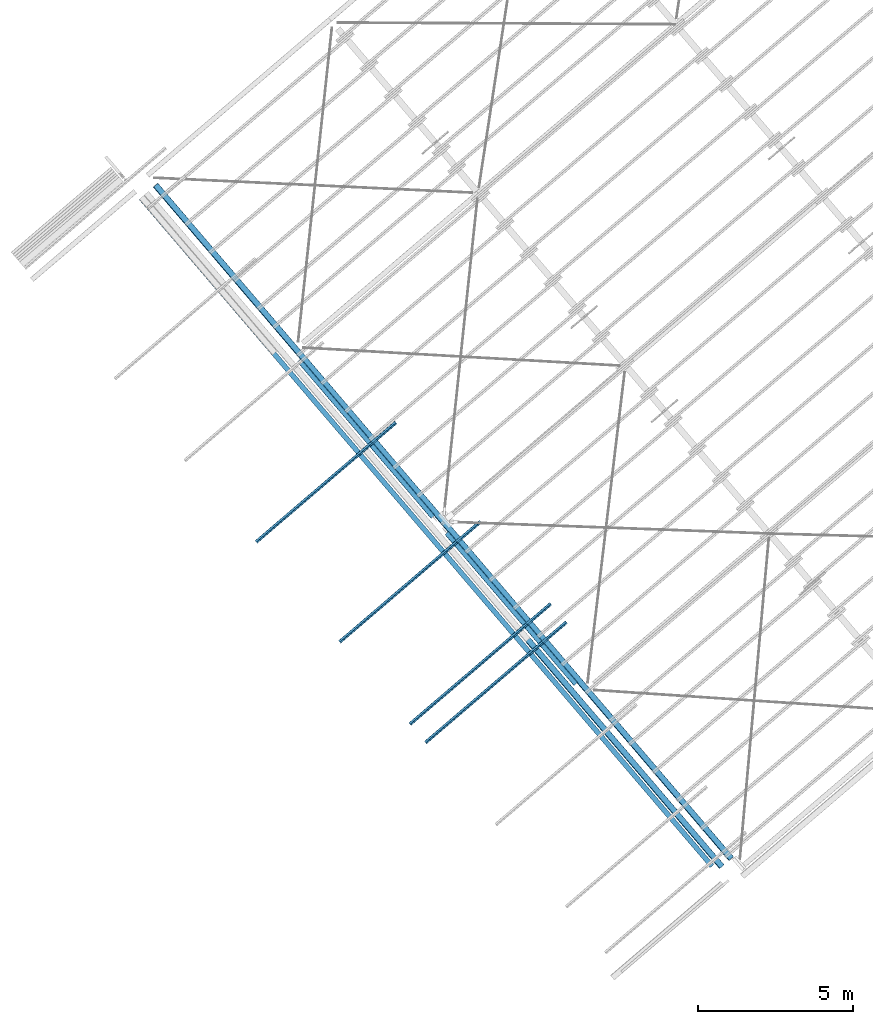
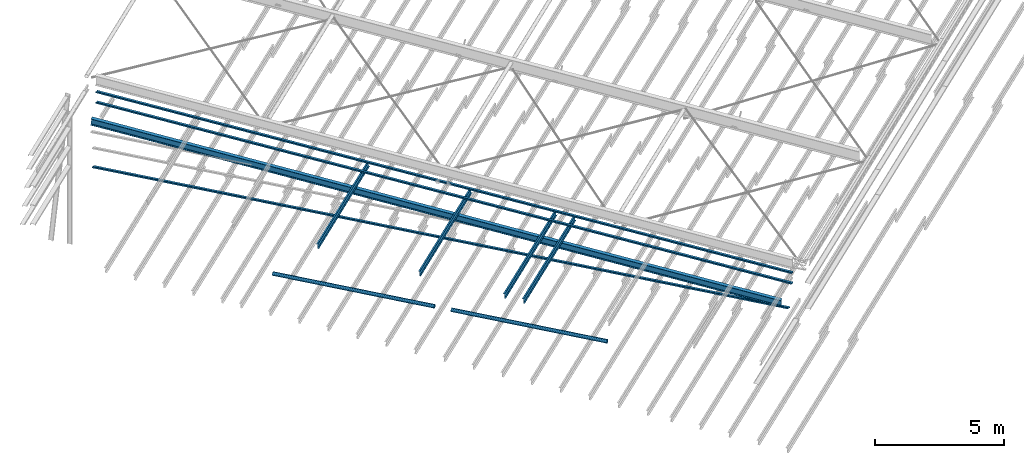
# One storey, part 1 of 25: 10 beams.
"""IFC2X3 building model written with IfcOpenShell, lengths in millimetres."""

import ifcopenshell
import ifcopenshell.guid

model = None  # the IFC model being written
_history = None  # IfcOwnerHistory: only IFC2X3 demands one
_inside = {}  # id of a spatial element -> (the spatial element, [elements in it])
_under = {}  # id of a project, library or spatial element -> (it, [spatial elements below it])
_declared = {}  # id of a project -> (the project, [libraries it declares])
_typed = {}  # id of a type object -> (the type object, [elements of that type])
_made_of = {}  # id of a material, layer set ... -> (it, [elements and type objects made of it])


def new_model(schema):
    """Start an empty IFC model of exactly this schema.

    Asked for "IFC4X3", IfcOpenShell would pick the latest addendum, in which some entities
    have other attributes; the version numbers below select the first issue.
    IFC2X3 requires an IfcOwnerHistory on every rooted entity: one is made here for all.
    """
    global model, _history
    if schema == "IFC4X3":
        model = ifcopenshell.file(schema_version=(4, 3, 0, 0))
    else:
        model = ifcopenshell.file(schema=schema)
    _inside.clear()
    _under.clear()
    _declared.clear()
    _typed.clear()
    _made_of.clear()
    _history = None
    if model.schema == "IFC2X3":
        org = make("IfcOrganization", Name="unknown")
        user = make(
            "IfcPersonAndOrganization",
            ThePerson=make("IfcPerson", FamilyName="unknown"),
            TheOrganization=org,
        )
        app = make(
            "IfcApplication",
            ApplicationDeveloper=org,
            Version="unknown",
            ApplicationFullName="unknown",
            ApplicationIdentifier="unknown",
        )
        _history = make(
            "IfcOwnerHistory",
            OwningUser=user,
            OwningApplication=app,
            ChangeAction="ADDED",
            CreationDate=0,
        )
    return model


def make(cls, **values):
    """One entity of the class cls with the attributes given. An attribute that is None is left unset."""
    return model.create_entity(
        cls, **{name: value for name, value in values.items() if value is not None}
    )


def entity(cls, *values):
    """Any entity or typed value of the class cls, its attributes in the order of the schema. None: left unset."""
    e = model.create_entity(cls)
    for i, value in enumerate(values):
        if value is not None:
            e[i] = value
    return e


def rooted(cls, **values):
    """An entity with a GlobalId (a new one), such as an element, a storey or a relation."""
    return make(cls, GlobalId=ifcopenshell.guid.new(), OwnerHistory=_history, **values)


def si_unit(unit_type, name, prefix=None):
    """IfcSIUnit, for example si_unit("LENGTHUNIT", "METRE", prefix="MILLI")."""
    return make("IfcSIUnit", UnitType=unit_type, Prefix=prefix, Name=name)


def converted_unit(unit_type, name, factor, base, dimensions=None, offset=None):
    """IfcConversionBasedUnit, such as the inch: factor (a typed value) times the base unit."""
    return make(
        "IfcConversionBasedUnit"
        if offset is None
        else "IfcConversionBasedUnitWithOffset",
        ConversionOffset=offset,
        Dimensions=None
        if dimensions is None
        else entity("IfcDimensionalExponents", *dimensions),
        UnitType=unit_type,
        Name=name,
        ConversionFactor=make(
            "IfcMeasureWithUnit", ValueComponent=factor, UnitComponent=base
        ),
    )


def derived_unit(unit_type, elements):
    """IfcDerivedUnit: a product of units, each with its exponent."""
    return make(
        "IfcDerivedUnit",
        Elements=[
            make("IfcDerivedUnitElement", Unit=unit, Exponent=power)
            for unit, power in elements
        ],
        UnitType=unit_type,
    )


def assignment(units):
    """IfcUnitAssignment: the units of a project."""
    return None if units is None else make("IfcUnitAssignment", Units=units)


def point(xyz):
    """IfcCartesianPoint."""
    return None if xyz is None else make("IfcCartesianPoint", Coordinates=xyz)


def direction(xyz):
    """IfcDirection."""
    return None if xyz is None else make("IfcDirection", DirectionRatios=xyz)


def frame(location, z_axis=None, x_axis=None):
    """IfcAxis2Placement3D, a coordinate frame: its origin and axes. An axis left out is left unset."""
    return make(
        "IfcAxis2Placement3D",
        Location=point(location),
        Axis=direction(z_axis),
        RefDirection=direction(x_axis),
    )


def frame_2d(location, x_axis=None):
    """IfcAxis2Placement2D, a coordinate frame in the plane: its origin and x axis."""
    return make(
        "IfcAxis2Placement2D", Location=point(location), RefDirection=direction(x_axis)
    )


def origin():
    """The frame at (0, 0, 0) with its axes left unset."""
    return frame((0.0, 0.0, 0.0))


def origin_2d_with_axis():
    """The frame at (0, 0) in the plane with the x axis (1, 0) written out."""
    return frame_2d((0.0, 0.0), x_axis=(1.0, 0.0))


def place(relative_to, where):
    """IfcLocalPlacement: puts the frame where relative to a parent placement (None: the world)."""
    return make(
        "IfcLocalPlacement", PlacementRelTo=relative_to, RelativePlacement=where
    )


def context(
    kind, dimensions, precision=None, world=None, true_north=None, identifier=None
):
    """IfcGeometricRepresentationContext, for example the 3D "Model" context."""
    return make(
        "IfcGeometricRepresentationContext",
        ContextIdentifier=identifier,
        ContextType=kind,
        CoordinateSpaceDimension=dimensions,
        Precision=precision,
        WorldCoordinateSystem=world,
        TrueNorth=true_north,
    )


def subcontext(parent, identifier, kind, view, scale=None):
    """IfcGeometricRepresentationSubContext, for example "Body" below "Model"."""
    return make(
        "IfcGeometricRepresentationSubContext",
        ContextIdentifier=identifier,
        ContextType=kind,
        ParentContext=parent,
        TargetScale=scale,
        TargetView=view,
    )


def project(units=None, contexts=None):
    """IfcProject with its units and contexts."""
    return rooted(
        "IfcProject",
        Name="project",
        RepresentationContexts=contexts,
        UnitsInContext=assignment(units),
    )


def spatial(cls, under=None, at=None, **own):
    """A site, building, storey or space (cls), placed at a placement, below another one or the project."""
    s = rooted(cls, ObjectPlacement=at, **own)
    if under is not None:
        _under.setdefault(under.id(), (under, []))[1].append(s)
    return s


def polyline(points):
    """IfcPolyline through the points."""
    return make("IfcPolyline", Points=[point(p) for p in points])


def circle_curve(where, radius):
    """IfcCircle in the frame where."""
    return make("IfcCircle", Position=where, Radius=radius)


def parameter(value):
    """IfcParameterValue: where a trimmed curve begins or ends, as a parameter of its basis curve."""
    return model.create_entity("IfcParameterValue", value)


def trimmed(basis, trim1, trim2, sense, master):
    """IfcTrimmedCurve: the piece of a basis curve between two trims."""
    return make(
        "IfcTrimmedCurve",
        BasisCurve=basis,
        Trim1=trim1,
        Trim2=trim2,
        SenseAgreement=sense,
        MasterRepresentation=master,
    )


def segment(curve, same_sense, transition):
    """IfcCompositeCurveSegment."""
    return make(
        "IfcCompositeCurveSegment",
        Transition=transition,
        SameSense=same_sense,
        ParentCurve=curve,
    )


def composite_curve(segments, self_intersect=None):
    """IfcCompositeCurve: segments joined end to end."""
    return make("IfcCompositeCurve", Segments=segments, SelfIntersect=self_intersect)


def profile(cls, at=None, kind="AREA", **sizes):
    """A parametric profile (cls). Its sizes go by their IFC names, for example OverallWidth=200.0."""
    return make(cls, ProfileType=kind, Position=at, **sizes)


def hollow_circle(**sizes):
    """IfcCircleHollowProfileDef."""
    return profile("IfcCircleHollowProfileDef", **sizes)


def i_section(**sizes):
    """IfcIShapeProfileDef."""
    return profile("IfcIShapeProfileDef", **sizes)


def outline(outer, holes=None, kind="AREA"):
    """IfcArbitraryClosedProfileDef: a profile drawn as a closed curve; with holes, ...WithVoids."""
    if holes is None:
        return make("IfcArbitraryClosedProfileDef", ProfileType=kind, OuterCurve=outer)
    return make(
        "IfcArbitraryProfileDefWithVoids",
        ProfileType=kind,
        OuterCurve=outer,
        InnerCurves=holes,
    )


def extrude(swept, where, along, depth):
    """IfcExtrudedAreaSolid: the profile swept, set in the frame where, extruded along a direction by depth."""
    return make(
        "IfcExtrudedAreaSolid",
        SweptArea=swept,
        Position=where,
        ExtrudedDirection=direction(along),
        Depth=depth,
    )


def shape(context_of_items, identifier, shape_type, items):
    """IfcShapeRepresentation: the items that make up one representation, for example the "Body"."""
    return make(
        "IfcShapeRepresentation",
        ContextOfItems=context_of_items,
        RepresentationIdentifier=identifier,
        RepresentationType=shape_type,
        Items=items,
    )


def material(Name=None, Category=None):
    """IfcMaterial."""
    return make("IfcMaterial", Name=Name, Category=Category)


def made_of(thing, what):
    """Note that an element or type object is made of a material, layer set ...; save() writes the relation."""
    if what is not None:
        _made_of.setdefault(what.id(), (what, []))[1].append(thing)
    return thing


def type_object(cls, material=None, **own):
    """A type object (cls), such as IfcWallType, which elements share."""
    return made_of(rooted(cls, **own), material)


def element(
    cls,
    number,
    at=None,
    inside=None,
    cuts=None,
    type_object=None,
    material=None,
    context=None,
    identifier="Body",
    shape_type=None,
    held_by="IfcProductDefinitionShape",
    body=None,
    shapes=None,
    **own,
):
    """One element of the class cls, such as IfcWall. Its Tag is "e" and its number.

    at: its placement. inside: the storey or other place that contains it. cuts: it is an
    opening in that element (IfcRelVoidsElement). A single representation is given by context,
    identifier, shape_type and body (its items); several are given by shapes. held_by: the class
    of the entity that holds the representations. save() writes the other relations.
    """
    e = rooted(cls, Tag="e%d" % number, ObjectPlacement=at, **own)
    if body is not None:
        shapes = [shape(context, identifier, shape_type, body)]
    if shapes is not None:
        e.Representation = make(held_by, Representations=shapes)
    if inside is not None:
        _inside.setdefault(inside.id(), (inside, []))[1].append(e)
    if cuts is not None:
        rooted(
            "IfcRelVoidsElement", RelatingBuildingElement=cuts, RelatedOpeningElement=e
        )
    if type_object is not None:
        _typed.setdefault(type_object.id(), (type_object, []))[1].append(e)
    return made_of(e, material)


def aggregate(whole, parts):
    """IfcRelAggregates: a whole, such as a stair, and the parts it consists of."""
    return rooted("IfcRelAggregates", RelatingObject=whole, RelatedObjects=parts)


def save(model, path):
    """Write the relations noted so far, then the file.

    IfcRelAggregates (storeys below a building ...), IfcRelContainedInSpatialStructure (elements
    in a storey), IfcRelDefinesByType, IfcRelAssociatesMaterial and IfcRelDeclares: one each for
    every whole, place, type object, material and project.
    """
    for whole, parts in _under.values():
        aggregate(whole, parts)
    for where, things in _inside.values():
        rooted(
            "IfcRelContainedInSpatialStructure",
            RelatedElements=things,
            RelatingStructure=where,
        )
    for kind, things in _typed.values():
        rooted("IfcRelDefinesByType", RelatedObjects=things, RelatingType=kind)
    for what, things in _made_of.values():
        rooted("IfcRelAssociatesMaterial", RelatedObjects=things, RelatingMaterial=what)
    for by, libraries in _declared.values():
        rooted("IfcRelDeclares", RelatingContext=by, RelatedDefinitions=libraries)
    model.write(path)


model = new_model("IFC2X3")

# Units and contexts
model_context = context("Model", 3, precision=0.01, world=origin(), true_north=direction((6.123031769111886e-17, 1.0)))
body_context = subcontext(model_context, "Body", "Model", "MODEL_VIEW")
ifc_project = project(units=[si_unit("LENGTHUNIT", "METRE", prefix="MILLI"), si_unit("AREAUNIT", "SQUARE_METRE"), si_unit("VOLUMEUNIT", "CUBIC_METRE"), converted_unit("PLANEANGLEUNIT", "DEGREE", entity("IfcRatioMeasure", 0.017453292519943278), si_unit("PLANEANGLEUNIT", "RADIAN"), dimensions=[0, 0, 0, 0, 0, 0, 0]), si_unit("MASSUNIT", "GRAM", prefix="KILO"), derived_unit("MASSDENSITYUNIT", [(si_unit("MASSUNIT", "GRAM", prefix="KILO"), 1), (si_unit("LENGTHUNIT", "METRE"), -3)]), derived_unit("MOMENTOFINERTIAUNIT", [(si_unit("LENGTHUNIT", "METRE"), 4)]), si_unit("TIMEUNIT", "SECOND"), si_unit("FREQUENCYUNIT", "HERTZ"), si_unit("THERMODYNAMICTEMPERATUREUNIT", "DEGREE_CELSIUS"), derived_unit("THERMALTRANSMITTANCEUNIT", [(si_unit("MASSUNIT", "GRAM", prefix="KILO"), 1), (si_unit("THERMODYNAMICTEMPERATUREUNIT", "KELVIN"), -1), (si_unit("TIMEUNIT", "SECOND"), -3)]), derived_unit("VOLUMETRICFLOWRATEUNIT", [(si_unit("LENGTHUNIT", "METRE"), 3), (si_unit("TIMEUNIT", "SECOND"), -1)]), derived_unit("MASSFLOWRATEUNIT", [(si_unit("MASSUNIT", "GRAM", prefix="KILO"), 1), (si_unit("TIMEUNIT", "SECOND"), -1)]), derived_unit("ROTATIONALFREQUENCYUNIT", [(si_unit("TIMEUNIT", "SECOND"), -1)]), si_unit("ELECTRICCURRENTUNIT", "AMPERE"), si_unit("ELECTRICVOLTAGEUNIT", "VOLT"), si_unit("POWERUNIT", "WATT"), si_unit("FORCEUNIT", "NEWTON", prefix="KILO"), si_unit("ILLUMINANCEUNIT", "LUX"), si_unit("LUMINOUSFLUXUNIT", "LUMEN"), si_unit("LUMINOUSINTENSITYUNIT", "CANDELA"), derived_unit("USERDEFINED", [(si_unit("MASSUNIT", "GRAM", prefix="KILO"), -1), (si_unit("LENGTHUNIT", "METRE"), -2), (si_unit("TIMEUNIT", "SECOND"), 3), (si_unit("LUMINOUSFLUXUNIT", "LUMEN"), 1)]), derived_unit("SOUNDPOWERUNIT", [(si_unit("MASSUNIT", "GRAM", prefix="KILO"), 1), (si_unit("LENGTHUNIT", "METRE"), 2), (si_unit("TIMEUNIT", "SECOND"), -3)]), derived_unit("LINEARVELOCITYUNIT", [(si_unit("LENGTHUNIT", "METRE"), 1), (si_unit("TIMEUNIT", "SECOND"), -1)]), si_unit("PRESSUREUNIT", "PASCAL"), derived_unit("USERDEFINED", [(si_unit("LENGTHUNIT", "METRE"), -2), (si_unit("MASSUNIT", "GRAM", prefix="KILO"), 1), (si_unit("TIMEUNIT", "SECOND"), -2)]), derived_unit("LINEARFORCEUNIT", [(si_unit("MASSUNIT", "GRAM", prefix="KILO"), 1), (si_unit("LENGTHUNIT", "METRE"), 1), (si_unit("TIMEUNIT", "SECOND"), -2), (si_unit("LENGTHUNIT", "METRE"), -1)]), derived_unit("PLANARFORCEUNIT", [(si_unit("MASSUNIT", "GRAM", prefix="KILO"), 1), (si_unit("LENGTHUNIT", "METRE"), 1), (si_unit("TIMEUNIT", "SECOND"), -2), (si_unit("LENGTHUNIT", "METRE"), -2)])], contexts=[model_context])

# Site, building, storey
site_placement = place(None, frame((962.4174930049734, -6014.433753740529, 0.0), z_axis=(0.0, 0.0, 1.0), x_axis=(0.7601792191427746, 0.649713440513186, 0.0)))
site = spatial("IfcSite", under=ifc_project, at=site_placement, Name="Default", CompositionType="ELEMENT")
building_placement = place(site_placement, origin())
building = spatial("IfcBuilding", under=site, at=building_placement, CompositionType="ELEMENT")
storey_placement = place(building_placement, frame((0.0, 0.0, 9200.0)))
storey = spatial("IfcBuildingStorey", under=building, at=storey_placement, Name="TOP OF CEILING", CompositionType="ELEMENT", Elevation=9200.000000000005)

# Beams
ifc_material_1 = material(Name="Metal - Steel - 300 MPa")
beam_type_1 = type_object("IfcBeamType", Name="ADSK_AU_CHS-Circular Hollow Sections (AS 1163_C350):168.3x6.4CHS", PredefinedType="NOTDEFINED")
beam_1_placement = place(storey_placement, frame((154419.96817234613, -17990.815770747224, -3340.84999999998), z_axis=(0.0, 0.0, 1.0), x_axis=(0.0, 1.0, 0.0)))
element("IfcBeam", 1, at=beam_1_placement, inside=storey, type_object=beam_type_1, material=ifc_material_1, Name="ADSK_AU_CHS-Circular Hollow Sections (AS 1163_C350):168.3x6.4CHS", ObjectType="ADSK_AU_CHS-Circular Hollow Sections (AS 1163_C350):168.3x6.4CHS", context=body_context, shape_type="SweptSolid", body=[
    extrude(hollow_circle(Radius=84.15000000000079, WallThickness=6.4000000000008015, at=origin_2d_with_axis()), frame((-7.996653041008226, 0.0, -84.15000000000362), z_axis=(1.0, 0.0, 0.0), x_axis=(0.0, 1.0, 0.0)), (0.0, 0.0, 1.0), 6428.170781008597),
])
beam_2_placement = place(storey_placement, frame((154419.96817234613, -10887.58709755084, -3340.8500000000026), z_axis=(0.0, 0.0, 1.0), x_axis=(0.0, 1.0, 0.0)))
element("IfcBeam", 2, at=beam_2_placement, inside=storey, type_object=beam_type_1, material=ifc_material_1, Name="ADSK_AU_CHS-Circular Hollow Sections (AS 1163_C350):168.3x6.4CHS", ObjectType="ADSK_AU_CHS-Circular Hollow Sections (AS 1163_C350):168.3x6.4CHS", context=body_context, shape_type="SweptSolid", body=[
    extrude(hollow_circle(Radius=84.15000000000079, WallThickness=6.4000000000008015, at=origin_2d_with_axis()), frame((0.0, 0.0, -84.15000000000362), z_axis=(1.0, 0.0, 0.0), x_axis=(0.0, 1.0, 0.0)), (0.0, 0.0, 1.0), 6671.500000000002),
])
beam_type_2 = type_object("IfcBeamType", Name="ADSK_AU_UB-Universal Beams (AS 3679_1):310UB40.4", PredefinedType="NOTDEFINED")
beam_3_placement = place(storey_placement, frame((153938.96020471, -25913.819673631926, 550.0897267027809), z_axis=(0.0, -0.06949270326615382, 0.9975824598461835), x_axis=(0.0, 0.9975824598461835, 0.06949270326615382)))
element("IfcBeam", 3, at=beam_3_placement, inside=storey, type_object=beam_type_2, Name="ADSK_AU_UB-Universal Beams (AS 3679_1):310UB40.4", ObjectType="ADSK_AU_UB-Universal Beams (AS 3679_1):310UB40.4", context=body_context, shape_type="SweptSolid", body=[
    extrude(i_section(OverallWidth=164.99999999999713, OverallDepth=304.0000000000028, WebThickness=6.100000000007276, FlangeThickness=10.200000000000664, FilletRadius=11.399999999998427, at=frame_2d((1.0800249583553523e-12, 1.7323031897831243e-11), x_axis=(0.0, 1.0))), frame((572.0, 0.0, -152.0), z_axis=(1.0, 0.0, 0.0), x_axis=(0.0, 0.0, -1.0)), (0.0, 0.0, 1.0), 28495.800000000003),
])
beam_type_3 = type_object("IfcBeamType", Name="ADSK_UK_Light Gauge-Zeds-Purlin:Metsec-202Z14", PredefinedType="NOTDEFINED")
beam_4_placement = place(storey_placement, frame((155490.82110097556, -7792.428082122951, 2017.000649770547), z_axis=(-1.0917099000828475e-07, 0.0, 1.0), x_axis=(-1.0, 0.0, -1.0917099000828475e-07)))
element("IfcBeam", 4, at=beam_4_placement, inside=storey, type_object=beam_type_3, material=ifc_material_1, Name="ADSK_UK_Light Gauge-Zeds-Purlin:Metsec-202Z14", ObjectType="ADSK_UK_Light Gauge-Zeds-Purlin:Metsec-202Z14", context=body_context, shape_type="SweptSolid", body=[
    extrude(outline(composite_curve([segment(trimmed(circle_curve(frame_2d((58.0, 98.39999999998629), x_axis=(1.0, 0.0)), 2.800000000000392), [parameter(0.0)], [parameter(89.99999999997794)], True, "PARAMETER"), True, "CONTINUOUS"), segment(polyline([(58.0, 101.19999999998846), (3.6000000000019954, 101.20000000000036)]), True, "CONTINUOUS"), segment(trimmed(circle_curve(frame_2d((3.6000000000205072, 98.40000000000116), x_axis=(0.0, 1.0)), 2.799999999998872), [parameter(0.0)], [parameter(90.00000000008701)], True, "PARAMETER"), True, "CONTINUOUS"), segment(polyline([(0.8000000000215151, 98.4000000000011), (0.7999999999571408, -98.0)]), True, "CONTINUOUS"), segment(trimmed(circle_curve(frame_2d((-0.6000000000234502, -98.0), x_axis=(1.0, 0.0)), 1.400000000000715), [parameter(270.0000000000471)], [parameter(0.0)], True, "PARAMETER"), False, "CONTINUOUS"), segment(polyline([(-0.600000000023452, -99.40000000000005), (-60.0, -99.39999999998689)]), True, "CONTINUOUS"), segment(trimmed(circle_curve(frame_2d((-60.0, -98.0), x_axis=(0.0, -1.0)), 1.4000000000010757), [parameter(270.0000000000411)], [parameter(0.0)], True, "PARAMETER"), False, "CONTINUOUS"), segment(polyline([(-61.40000000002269, -98.0), (-61.400000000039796, -81.79999999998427)]), True, "CONTINUOUS"), segment(polyline([(-61.40000000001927, -81.7999999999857), (-62.80000000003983, -81.79999999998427)]), True, "CONTINUOUS"), segment(polyline([(-62.80000000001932, -81.79999999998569), (-62.800000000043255, -98.0)]), True, "CONTINUOUS"), segment(trimmed(circle_curve(frame_2d((-60.0, -98.0), x_axis=(-1.0, 0.0)), 2.8000000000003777), [parameter(0.0)], [parameter(89.99999999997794)], True, "PARAMETER"), True, "CONTINUOUS"), segment(polyline([(-60.0, -100.79999999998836), (-0.600000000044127, -100.80000000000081)]), True, "CONTINUOUS"), segment(trimmed(circle_curve(frame_2d((-0.6000000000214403, -98.0), x_axis=(0.0, -1.0)), 2.7999999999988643), [parameter(0.0)], [parameter(90.00000000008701)], True, "PARAMETER"), True, "CONTINUOUS"), segment(polyline([(2.1999999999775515, -98.0), (2.200000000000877, 98.40000000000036)]), True, "CONTINUOUS"), segment(trimmed(circle_curve(frame_2d((3.6000000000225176, 98.39999999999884), x_axis=(-1.0, 0.0)), 1.4000000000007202), [parameter(270.0000000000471)], [parameter(0.0)], True, "PARAMETER"), False, "CONTINUOUS"), segment(polyline([(3.600000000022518, 99.79999999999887), (58.0, 99.79999999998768)]), True, "CONTINUOUS"), segment(trimmed(circle_curve(frame_2d((58.0, 98.39999999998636), x_axis=(0.0, 1.0)), 1.4000000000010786), [parameter(270.0000000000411)], [parameter(0.0)], True, "PARAMETER"), False, "CONTINUOUS"), segment(polyline([(59.4000000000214, 98.39999999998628), (59.399999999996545, 80.19999999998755)]), True, "CONTINUOUS"), segment(polyline([(59.40000000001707, 80.19999999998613), (60.79999999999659, 80.19999999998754)]), True, "CONTINUOUS"), segment(polyline([(60.800000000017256, 80.19999999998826), (60.800000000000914, 98.39999999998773)]), True, "CONTINUOUS")], self_intersect=False)), frame((0.430448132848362, -7.694663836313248, -100.50831880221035), z_axis=(-1.0, 0.0, 0.0), x_axis=(0.0, 0.9975883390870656, -0.06940825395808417)), (0.0, 0.0, -1.0), 5951.000000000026),
])
beam_5_placement = place(storey_placement, frame((155490.82110097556, -12007.428082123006, 1730.0), z_axis=(0.0, 0.0, 1.0), x_axis=(-1.0, 0.0, 0.0)))
element("IfcBeam", 5, at=beam_5_placement, inside=storey, type_object=beam_type_3, material=ifc_material_1, Name="ADSK_UK_Light Gauge-Zeds-Purlin:Metsec-202Z14", ObjectType="ADSK_UK_Light Gauge-Zeds-Purlin:Metsec-202Z14", context=body_context, shape_type="SweptSolid", body=[
    extrude(outline(composite_curve([segment(trimmed(circle_curve(frame_2d((98.39999999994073, 58.0), x_axis=(1.0, 0.0)), 2.799999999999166), [parameter(0.0)], [parameter(90.00000000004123)], True, "PARAMETER"), True, "CONTINUOUS"), segment(polyline([(98.39999999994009, 60.8000000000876), (80.19999999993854, 60.80000000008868)]), True, "CONTINUOUS"), segment(polyline([(80.1999999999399, 60.80000000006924), (80.19999999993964, 59.400000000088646)]), True, "CONTINUOUS"), segment(polyline([(80.19999999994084, 59.400000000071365), (98.39999999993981, 59.400000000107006)]), True, "CONTINUOUS"), segment(trimmed(circle_curve(frame_2d((98.39999999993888, 58.0), x_axis=(0.0, 1.0)), 1.4000000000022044), [parameter(270.0000000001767)], [parameter(0.0)], True, "PARAMETER"), False, "CONTINUOUS"), segment(polyline([(99.79999999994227, 58.0), (99.79999999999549, 3.600000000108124)]), True, "CONTINUOUS"), segment(trimmed(circle_curve(frame_2d((98.39999999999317, 3.6000000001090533), x_axis=(1.0, 0.0)), 1.4000000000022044), [parameter(270.0000000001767)], [parameter(0.0)], True, "PARAMETER"), False, "CONTINUOUS"), segment(polyline([(98.39999999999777, 2.200000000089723), (-98.0, 2.1999999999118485)]), True, "CONTINUOUS"), segment(trimmed(circle_curve(frame_2d((-98.0, -0.6000000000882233), x_axis=(0.0, 1.0)), 2.79999999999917), [parameter(0.0)], [parameter(90.00000000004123)], True, "PARAMETER"), True, "CONTINUOUS"), segment(polyline([(-100.79999999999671, -0.6000000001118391), (-100.79999999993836, -60.0)]), True, "CONTINUOUS"), segment(trimmed(circle_curve(frame_2d((-98.0, -60.0), x_axis=(-1.0, 0.0)), 2.7999999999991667), [parameter(0.0)], [parameter(90.00000000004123)], True, "PARAMETER"), True, "CONTINUOUS"), segment(polyline([(-98.0, -62.80000000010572), (-81.79999999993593, -62.800000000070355)]), True, "CONTINUOUS"), segment(polyline([(-81.79999999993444, -62.800000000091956), (-81.79999999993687, -61.40000000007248)]), True, "CONTINUOUS"), segment(polyline([(-81.79999999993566, -61.40000000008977), (-98.0, -61.40000000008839)]), True, "CONTINUOUS"), segment(trimmed(circle_curve(frame_2d((-98.0, -60.0), x_axis=(0.0, -1.0)), 1.400000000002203), [parameter(270.0000000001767)], [parameter(0.0)], True, "PARAMETER"), False, "CONTINUOUS"), segment(polyline([(-99.39999999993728, -60.0), (-99.39999999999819, -0.6000000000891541)]), True, "CONTINUOUS"), segment(trimmed(circle_curve(frame_2d((-98.0, -0.6000000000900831), x_axis=(-1.0, 0.0)), 1.400000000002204), [parameter(270.0000000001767)], [parameter(0.0)], True, "PARAMETER"), False, "CONTINUOUS"), segment(polyline([(-98.0, 0.7999999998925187), (98.39999999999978, 0.8000000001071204)]), True, "CONTINUOUS"), segment(trimmed(circle_curve(frame_2d((98.39999999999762, 3.6000000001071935), x_axis=(0.0, -1.0)), 2.7999999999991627), [parameter(0.0)], [parameter(90.00000000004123)], True, "PARAMETER"), True, "CONTINUOUS"), segment(polyline([(101.19999999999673, 3.6000000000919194), (101.19999999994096, 58.0)]), True, "CONTINUOUS")], self_intersect=False)), frame((0.0, -7.694663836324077, -100.5083188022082), z_axis=(1.0, 0.0, 0.0), x_axis=(0.0, -0.06940825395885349, -0.997588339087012)), (0.0, 0.0, 1.0), 6000.000000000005),
])
beam_6_placement = place(storey_placement, frame((155490.82110097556, -15507.428082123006, 1490.0), z_axis=(0.0, 0.0, 1.0), x_axis=(-1.0, 0.0, 0.0)))
element("IfcBeam", 6, at=beam_6_placement, inside=storey, type_object=beam_type_3, material=ifc_material_1, Name="ADSK_UK_Light Gauge-Zeds-Purlin:Metsec-202Z14", ObjectType="ADSK_UK_Light Gauge-Zeds-Purlin:Metsec-202Z14", context=body_context, shape_type="SweptSolid", body=[
    extrude(outline(composite_curve([segment(trimmed(circle_curve(frame_2d((98.39999999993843, 58.0), x_axis=(1.0, 0.0)), 2.799999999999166), [parameter(0.0)], [parameter(90.00000000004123)], True, "PARAMETER"), True, "CONTINUOUS"), segment(polyline([(98.39999999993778, 60.80000000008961), (80.19999999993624, 60.80000000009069)]), True, "CONTINUOUS"), segment(polyline([(80.19999999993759, 60.80000000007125), (80.19999999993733, 59.40000000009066)]), True, "CONTINUOUS"), segment(polyline([(80.19999999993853, 59.400000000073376), (98.39999999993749, 59.40000000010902)]), True, "CONTINUOUS"), segment(trimmed(circle_curve(frame_2d((98.39999999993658, 58.0), x_axis=(0.0, 1.0)), 1.4000000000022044), [parameter(270.0000000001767)], [parameter(0.0)], True, "PARAMETER"), False, "CONTINUOUS"), segment(polyline([(99.79999999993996, 58.0), (99.7999999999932, 3.6000000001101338)]), True, "CONTINUOUS"), segment(trimmed(circle_curve(frame_2d((98.39999999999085, 3.6000000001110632), x_axis=(1.0, 0.0)), 1.4000000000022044), [parameter(270.0000000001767)], [parameter(0.0)], True, "PARAMETER"), False, "CONTINUOUS"), segment(polyline([(98.39999999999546, 2.200000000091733), (-98.0, 2.1999999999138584)]), True, "CONTINUOUS"), segment(trimmed(circle_curve(frame_2d((-98.0, -0.6000000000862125), x_axis=(0.0, 1.0)), 2.79999999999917), [parameter(0.0)], [parameter(90.00000000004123)], True, "PARAMETER"), True, "CONTINUOUS"), segment(polyline([(-100.79999999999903, -0.6000000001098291), (-100.79999999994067, -60.0)]), True, "CONTINUOUS"), segment(trimmed(circle_curve(frame_2d((-98.0, -60.0), x_axis=(-1.0, 0.0)), 2.7999999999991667), [parameter(0.0)], [parameter(90.00000000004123)], True, "PARAMETER"), True, "CONTINUOUS"), segment(polyline([(-98.0, -62.80000000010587), (-81.7999999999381, -62.80000000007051)]), True, "CONTINUOUS"), segment(polyline([(-81.79999999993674, -62.800000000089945), (-81.79999999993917, -61.40000000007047)]), True, "CONTINUOUS"), segment(polyline([(-81.79999999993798, -61.40000000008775), (-98.0, -61.40000000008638)]), True, "CONTINUOUS"), segment(trimmed(circle_curve(frame_2d((-98.0, -60.0), x_axis=(0.0, -1.0)), 1.400000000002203), [parameter(270.0000000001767)], [parameter(0.0)], True, "PARAMETER"), False, "CONTINUOUS"), segment(polyline([(-99.39999999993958, -60.0), (-99.40000000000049, -0.6000000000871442)]), True, "CONTINUOUS"), segment(trimmed(circle_curve(frame_2d((-98.0, -0.6000000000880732), x_axis=(-1.0, 0.0)), 1.400000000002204), [parameter(270.0000000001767)], [parameter(0.0)], True, "PARAMETER"), False, "CONTINUOUS"), segment(polyline([(-98.0, 0.7999999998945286), (98.39999999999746, 0.8000000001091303)]), True, "CONTINUOUS"), segment(trimmed(circle_curve(frame_2d((98.39999999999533, 3.6000000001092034), x_axis=(0.0, -1.0)), 2.7999999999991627), [parameter(0.0)], [parameter(90.00000000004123)], True, "PARAMETER"), True, "CONTINUOUS"), segment(polyline([(101.19999999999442, 3.6000000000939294), (101.19999999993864, 58.0)]), True, "CONTINUOUS")], self_intersect=False)), frame((0.0, -7.694663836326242, -100.50831880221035), z_axis=(1.0, 0.0, 0.0), x_axis=(0.0, -0.06940825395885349, -0.997588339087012)), (0.0, 0.0, 1.0), 6000.000000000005),
])
beam_7_placement = place(storey_placement, frame((155490.82110097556, -16287.428082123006, 1430.6412553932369), z_axis=(0.0, 0.0, 1.0), x_axis=(-1.0, 0.0, 0.0)))
element("IfcBeam", 7, at=beam_7_placement, inside=storey, type_object=beam_type_3, material=ifc_material_1, Name="ADSK_UK_Light Gauge-Zeds-Purlin:Metsec-202Z14", ObjectType="ADSK_UK_Light Gauge-Zeds-Purlin:Metsec-202Z14", context=body_context, shape_type="SweptSolid", body=[
    extrude(outline(composite_curve([segment(trimmed(circle_curve(frame_2d((98.39999999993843, 58.0), x_axis=(1.0, 0.0)), 2.799999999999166), [parameter(0.0)], [parameter(90.00000000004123)], True, "PARAMETER"), True, "CONTINUOUS"), segment(polyline([(98.39999999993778, 60.80000000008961), (80.19999999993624, 60.80000000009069)]), True, "CONTINUOUS"), segment(polyline([(80.19999999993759, 60.80000000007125), (80.19999999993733, 59.40000000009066)]), True, "CONTINUOUS"), segment(polyline([(80.19999999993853, 59.400000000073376), (98.39999999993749, 59.40000000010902)]), True, "CONTINUOUS"), segment(trimmed(circle_curve(frame_2d((98.39999999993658, 58.0), x_axis=(0.0, 1.0)), 1.4000000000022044), [parameter(270.0000000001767)], [parameter(0.0)], True, "PARAMETER"), False, "CONTINUOUS"), segment(polyline([(99.79999999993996, 58.0), (99.7999999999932, 3.6000000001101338)]), True, "CONTINUOUS"), segment(trimmed(circle_curve(frame_2d((98.39999999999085, 3.6000000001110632), x_axis=(1.0, 0.0)), 1.4000000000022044), [parameter(270.0000000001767)], [parameter(0.0)], True, "PARAMETER"), False, "CONTINUOUS"), segment(polyline([(98.39999999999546, 2.200000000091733), (-98.0, 2.1999999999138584)]), True, "CONTINUOUS"), segment(trimmed(circle_curve(frame_2d((-98.0, -0.6000000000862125), x_axis=(0.0, 1.0)), 2.79999999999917), [parameter(0.0)], [parameter(90.00000000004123)], True, "PARAMETER"), True, "CONTINUOUS"), segment(polyline([(-100.79999999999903, -0.6000000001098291), (-100.79999999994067, -60.0)]), True, "CONTINUOUS"), segment(trimmed(circle_curve(frame_2d((-98.0, -60.0), x_axis=(-1.0, 0.0)), 2.7999999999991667), [parameter(0.0)], [parameter(90.00000000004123)], True, "PARAMETER"), True, "CONTINUOUS"), segment(polyline([(-98.0, -62.80000000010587), (-81.7999999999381, -62.80000000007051)]), True, "CONTINUOUS"), segment(polyline([(-81.79999999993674, -62.800000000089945), (-81.79999999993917, -61.40000000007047)]), True, "CONTINUOUS"), segment(polyline([(-81.79999999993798, -61.40000000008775), (-98.0, -61.40000000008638)]), True, "CONTINUOUS"), segment(trimmed(circle_curve(frame_2d((-98.0, -60.0), x_axis=(0.0, -1.0)), 1.400000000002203), [parameter(270.0000000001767)], [parameter(0.0)], True, "PARAMETER"), False, "CONTINUOUS"), segment(polyline([(-99.39999999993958, -60.0), (-99.40000000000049, -0.6000000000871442)]), True, "CONTINUOUS"), segment(trimmed(circle_curve(frame_2d((-98.0, -0.6000000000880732), x_axis=(-1.0, 0.0)), 1.400000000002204), [parameter(270.0000000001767)], [parameter(0.0)], True, "PARAMETER"), False, "CONTINUOUS"), segment(polyline([(-98.0, 0.7999999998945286), (98.39999999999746, 0.8000000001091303)]), True, "CONTINUOUS"), segment(trimmed(circle_curve(frame_2d((98.39999999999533, 3.6000000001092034), x_axis=(0.0, -1.0)), 2.7999999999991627), [parameter(0.0)], [parameter(90.00000000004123)], True, "PARAMETER"), True, "CONTINUOUS"), segment(polyline([(101.19999999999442, 3.6000000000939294), (101.19999999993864, 58.0)]), True, "CONTINUOUS")], self_intersect=False)), frame((0.0, -7.694663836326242, -100.50831880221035), z_axis=(1.0, 0.0, 0.0), x_axis=(0.0, -0.06940825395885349, -0.997588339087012)), (0.0, 0.0, 1.0), 6000.000000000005),
])
beam_8_placement = place(storey_placement, frame((154066.46020470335, -25607.428082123, 100.0), z_axis=(0.0, 0.0, 1.0), x_axis=(0.0, 1.0, 0.0)))
element("IfcBeam", 8, at=beam_8_placement, inside=storey, type_object=beam_type_3, material=ifc_material_1, Name="ADSK_UK_Light Gauge-Zeds-Purlin:Metsec-202Z14", ObjectType="ADSK_UK_Light Gauge-Zeds-Purlin:Metsec-202Z14", context=body_context, shape_type="SweptSolid", body=[
    extrude(outline(composite_curve([segment(polyline([(3.600000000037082, -101.20000000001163), (58.0, -101.20000000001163)]), True, "CONTINUOUS"), segment(trimmed(circle_curve(frame_2d((58.0, -98.40000000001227), x_axis=(0.0, -1.0)), 2.8000000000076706), [parameter(0.0)], [parameter(89.99999999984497)], True, "PARAMETER"), True, "CONTINUOUS"), segment(polyline([(60.80000000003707, -98.40000000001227), (60.79999999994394, -80.2000000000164)]), True, "CONTINUOUS"), segment(polyline([(60.80000000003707, -80.2000000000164), (59.399999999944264, -80.2000000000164)]), True, "CONTINUOUS"), segment(polyline([(59.40000000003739, -80.1999999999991), (59.399999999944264, -98.40000000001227)]), True, "CONTINUOUS"), segment(trimmed(circle_curve(frame_2d((58.0, -98.40000000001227), x_axis=(1.0, 0.0)), 1.3999999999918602), [parameter(269.9999999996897)], [parameter(0.0)], True, "PARAMETER"), False, "CONTINUOUS"), segment(polyline([(58.0, -99.80000000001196), (3.5999999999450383, -99.80000000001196)]), True, "CONTINUOUS"), segment(trimmed(circle_curve(frame_2d((3.5999999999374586, -98.40000000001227), x_axis=(0.0, -1.0)), 1.399999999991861), [parameter(269.9999999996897)], [parameter(0.0)], True, "PARAMETER"), False, "CONTINUOUS"), segment(polyline([(2.2000000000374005, -98.39999999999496), (2.1999999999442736, 98.0)]), True, "CONTINUOUS"), segment(trimmed(circle_curve(frame_2d((-0.60000000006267, 98.0), x_axis=(1.0, 0.0)), 2.8000000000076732), [parameter(0.0)], [parameter(89.99999999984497)], True, "PARAMETER"), True, "CONTINUOUS"), segment(polyline([(-0.5999999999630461, 100.79999999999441), (-60.0, 100.79999999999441)]), True, "CONTINUOUS"), segment(trimmed(circle_curve(frame_2d((-60.0, 98.0), x_axis=(0.0, 1.0)), 2.800000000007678), [parameter(0.0)], [parameter(89.99999999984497)], True, "PARAMETER"), True, "CONTINUOUS"), segment(polyline([(-62.799999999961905, 98.0), (-62.80000000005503, 81.79999999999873)]), True, "CONTINUOUS"), segment(polyline([(-62.799999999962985, 81.79999999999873), (-61.40000000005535, 81.79999999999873)]), True, "CONTINUOUS"), segment(polyline([(-61.39999999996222, 81.79999999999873), (-61.40000000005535, 98.0)]), True, "CONTINUOUS"), segment(trimmed(circle_curve(frame_2d((-60.0, 98.0), x_axis=(-1.0, 0.0)), 1.3999999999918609), [parameter(269.9999999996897)], [parameter(0.0)], True, "PARAMETER"), False, "CONTINUOUS"), segment(polyline([(-60.0, 99.39999999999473), (-0.6000000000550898, 99.39999999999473)]), True, "CONTINUOUS"), segment(trimmed(circle_curve(frame_2d((-0.6000000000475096, 98.0), x_axis=(0.0, 1.0)), 1.399999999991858), [parameter(269.9999999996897)], [parameter(0.0)], True, "PARAMETER"), False, "CONTINUOUS"), segment(polyline([(0.8000000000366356, 98.0), (0.7999999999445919, -98.40000000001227)]), True, "CONTINUOUS"), segment(trimmed(circle_curve(frame_2d((3.599999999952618, -98.40000000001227), x_axis=(-1.0, 0.0)), 2.800000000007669), [parameter(0.0)], [parameter(89.99999999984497)], True, "PARAMETER"), True, "CONTINUOUS")], self_intersect=False)), frame((43.0, -100.79999999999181, 0.6999999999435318), z_axis=(1.0, 0.0, 0.0), x_axis=(0.0, 0.0, -1.0)), (0.0, 0.0, 1.0), 28668.999999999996),
])
ifc_material_2 = material(Name="Metal - Steel - 345 MPa")
beam_type_4 = type_object("IfcBeamType", Name="ADSK_AU_Light Gauge-Zeds:Z20012", PredefinedType="NOTDEFINED")
beam_9_placement = place(storey_placement, frame((154464.9602047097, -25961.87880603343, 1478.1506771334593), z_axis=(0.0, -0.06593506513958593, 0.997823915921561), x_axis=(0.0, 0.997823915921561, 0.06593506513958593)))
element("IfcBeam", 9, at=beam_9_placement, inside=storey, type_object=beam_type_4, material=ifc_material_2, Name="ADSK_AU_Light Gauge-Zeds:Z20012", ObjectType="ADSK_AU_Light Gauge-Zeds:Z20012", context=body_context, shape_type="SweptSolid", body=[
    extrude(outline(composite_curve([segment(polyline([(-1.2400000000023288, -101.50000000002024), (68.359999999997, -101.50000000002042)]), True, "CONTINUOUS"), segment(trimmed(circle_curve(frame_2d((68.359999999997, -98.30000000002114), x_axis=(0.0, -1.0)), 3.2000000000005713), [parameter(0.0)], [parameter(90.00000000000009)], True, "PARAMETER"), True, "CONTINUOUS"), segment(polyline([(71.55999999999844, -98.30000000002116), (71.55999999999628, -82.0)]), True, "CONTINUOUS"), segment(polyline([(71.55999999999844, -82.0), (70.35999999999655, -82.0)]), True, "CONTINUOUS"), segment(polyline([(70.35999999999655, -82.0), (70.35999999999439, -98.30000000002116)]), True, "CONTINUOUS"), segment(trimmed(circle_curve(frame_2d((68.35999999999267, -98.30000000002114), x_axis=(1.0, 0.0)), 2.0000000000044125), [parameter(270.00000000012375)], [parameter(0.0)], True, "PARAMETER"), False, "CONTINUOUS"), segment(polyline([(68.359999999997, -100.30000000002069), (-1.2400000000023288, -100.3000000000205)]), True, "CONTINUOUS"), segment(trimmed(circle_curve(frame_2d((-1.2399999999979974, -98.30000000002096), x_axis=(0.0, -1.0)), 2.000000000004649), [parameter(270.00000000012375)], [parameter(0.0)], True, "PARAMETER"), False, "CONTINUOUS"), segment(polyline([(-3.2400000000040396, -98.30000000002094), (-3.2400000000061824, 98.29999999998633)]), True, "CONTINUOUS"), segment(trimmed(circle_curve(frame_2d((-6.440000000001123, 98.29999999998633), x_axis=(1.0, 0.0)), 3.200000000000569), [parameter(0.0)], [parameter(90.00000000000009)], True, "PARAMETER"), True, "CONTINUOUS"), segment(polyline([(-6.440000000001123, 101.4999999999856), (-63.24000000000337, 101.49999999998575)]), True, "CONTINUOUS"), segment(trimmed(circle_curve(frame_2d((-63.24000000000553, 98.29999999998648), x_axis=(0.0, 1.0)), 3.200000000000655), [parameter(0.0)], [parameter(90.00000000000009)], True, "PARAMETER"), True, "CONTINUOUS"), segment(polyline([(-66.44000000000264, 98.2999999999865), (-66.44000000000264, 82.0)]), True, "CONTINUOUS"), segment(polyline([(-66.44000000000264, 82.0), (-65.24000000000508, 82.0)]), True, "CONTINUOUS"), segment(polyline([(-65.24000000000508, 82.0), (-65.24000000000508, 98.2999999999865)]), True, "CONTINUOUS"), segment(trimmed(circle_curve(frame_2d((-63.2400000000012, 98.29999999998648), x_axis=(-1.0, 0.0)), 2.0000000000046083), [parameter(270.00000000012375)], [parameter(0.0)], True, "PARAMETER"), False, "CONTINUOUS"), segment(polyline([(-63.24000000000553, 100.29999999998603), (-6.440000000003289, 100.29999999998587)]), True, "CONTINUOUS"), segment(trimmed(circle_curve(frame_2d((-6.440000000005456, 98.29999999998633), x_axis=(0.0, 1.0)), 2.000000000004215), [parameter(270.00000000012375)], [parameter(0.0)], True, "PARAMETER"), False, "CONTINUOUS"), segment(polyline([(-4.440000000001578, 98.29999999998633), (-4.440000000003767, -98.30000000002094)]), True, "CONTINUOUS"), segment(trimmed(circle_curve(frame_2d((-1.2400000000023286, -98.30000000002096), x_axis=(-1.0, 0.0)), 3.20000000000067), [parameter(0.0)], [parameter(90.00000000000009)], True, "PARAMETER"), True, "CONTINUOUS")], self_intersect=False)), frame((400.0, -101.49999999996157, -4.439999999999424), z_axis=(1.0, 0.0, 0.0), x_axis=(0.0, 0.0, -1.0)), (0.0, 0.0, 1.0), 28733.000000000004),
])
beam_10_placement = place(storey_placement, frame((154464.9602047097, -25928.91127346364, 979.2387191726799), z_axis=(0.0, -0.06593506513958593, 0.997823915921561), x_axis=(0.0, 0.997823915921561, 0.06593506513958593)))
element("IfcBeam", 10, at=beam_10_placement, inside=storey, type_object=beam_type_4, material=ifc_material_2, Name="ADSK_AU_Light Gauge-Zeds:Z20012", ObjectType="ADSK_AU_Light Gauge-Zeds:Z20012", context=body_context, shape_type="SweptSolid", body=[
    extrude(outline(composite_curve([segment(polyline([(-1.2400000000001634, -101.50000000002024), (68.35999999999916, -101.5000000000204)]), True, "CONTINUOUS"), segment(trimmed(circle_curve(frame_2d((68.359999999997, -98.30000000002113), x_axis=(0.0, -1.0)), 3.200000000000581), [parameter(0.0)], [parameter(90.00000000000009)], True, "PARAMETER"), True, "CONTINUOUS"), segment(polyline([(71.55999999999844, -98.30000000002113), (71.55999999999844, -82.0)]), True, "CONTINUOUS"), segment(polyline([(71.55999999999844, -82.0), (70.36000000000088, -82.0)]), True, "CONTINUOUS"), segment(polyline([(70.3599999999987, -82.0), (70.3599999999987, -98.30000000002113)]), True, "CONTINUOUS"), segment(trimmed(circle_curve(frame_2d((68.35999999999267, -98.30000000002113), x_axis=(1.0, 0.0)), 2.000000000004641), [parameter(270.00000000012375)], [parameter(0.0)], True, "PARAMETER"), False, "CONTINUOUS"), segment(polyline([(68.359999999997, -100.30000000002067), (-1.2400000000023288, -100.3000000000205)]), True, "CONTINUOUS"), segment(trimmed(circle_curve(frame_2d((-1.2399999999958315, -98.30000000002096), x_axis=(0.0, -1.0)), 2.000000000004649), [parameter(270.00000000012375)], [parameter(0.0)], True, "PARAMETER"), False, "CONTINUOUS"), segment(polyline([(-3.2400000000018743, -98.30000000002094), (-3.240000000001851, 98.29999999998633)]), True, "CONTINUOUS"), segment(trimmed(circle_curve(frame_2d((-6.440000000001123, 98.29999999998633), x_axis=(1.0, 0.0)), 3.200000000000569), [parameter(0.0)], [parameter(90.00000000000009)], True, "PARAMETER"), True, "CONTINUOUS"), segment(polyline([(-6.440000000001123, 101.4999999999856), (-63.239999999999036, 101.49999999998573)]), True, "CONTINUOUS"), segment(trimmed(circle_curve(frame_2d((-63.2400000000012, 98.29999999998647), x_axis=(0.0, 1.0)), 3.200000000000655), [parameter(0.0)], [parameter(90.00000000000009)], True, "PARAMETER"), True, "CONTINUOUS"), segment(polyline([(-66.44000000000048, 98.29999999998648), (-66.44000000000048, 82.0)]), True, "CONTINUOUS"), segment(polyline([(-66.44000000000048, 82.0), (-65.23999999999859, 82.0)]), True, "CONTINUOUS"), segment(polyline([(-65.24000000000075, 82.0), (-65.24000000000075, 98.29999999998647)]), True, "CONTINUOUS"), segment(trimmed(circle_curve(frame_2d((-63.23999999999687, 98.29999999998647), x_axis=(-1.0, 0.0)), 2.0000000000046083), [parameter(270.00000000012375)], [parameter(0.0)], True, "PARAMETER"), False, "CONTINUOUS"), segment(polyline([(-63.2400000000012, 100.29999999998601), (-6.440000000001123, 100.29999999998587)]), True, "CONTINUOUS"), segment(trimmed(circle_curve(frame_2d((-6.440000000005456, 98.29999999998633), x_axis=(0.0, 1.0)), 2.000000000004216), [parameter(270.00000000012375)], [parameter(0.0)], True, "PARAMETER"), False, "CONTINUOUS"), segment(polyline([(-4.440000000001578, 98.29999999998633), (-4.440000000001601, -98.30000000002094)]), True, "CONTINUOUS"), segment(trimmed(circle_curve(frame_2d((-1.2400000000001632, -98.30000000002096), x_axis=(-1.0, 0.0)), 3.20000000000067), [parameter(0.0)], [parameter(90.00000000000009)], True, "PARAMETER"), True, "CONTINUOUS")], self_intersect=False)), frame((367.0, -101.49999999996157, -4.439999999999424), z_axis=(1.0, 0.0, 0.0), x_axis=(0.0, 0.0, -1.0)), (0.0, 0.0, 1.0), 28733.000000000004),
])

save(model, "model.ifc")
